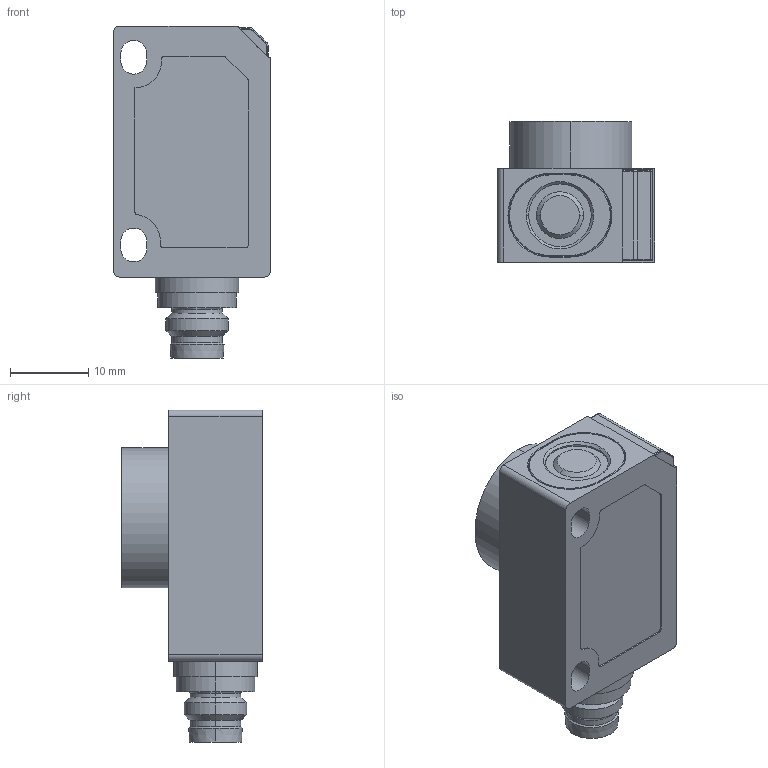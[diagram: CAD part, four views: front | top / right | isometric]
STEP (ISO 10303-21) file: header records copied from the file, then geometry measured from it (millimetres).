
FILE_DESCRIPTION((''),'2;1');
FILE_NAME('C:\Dokumente und Einstellungen\Kramp\Eigene Dateien\Microsonic Nacharbeit 2\STP\zws-70_CX_QS.stp','2005-08-10T11:37:20',('Kramp'),(''),'Autodesk Inventor 7','Autodesk Inventor 7','');
FILE_SCHEMA(('AUTOMOTIVE_DESIGN { 1 0 10303 214 1 1 1 1 }'));
Length unit declared in the file: millimetre
Products named in the file (1): zws-70_CX_QS
Bounding box: 20.11 x 18 x 42.45 mm (x, y, z)
Volume: 9130.8 mm3; surface area: 3552.5 mm2
Topology: 1 solids, 1 shells, 155 faces, 380 edges, 236 vertices
Faces by surface type: cylinder 61, plane 56, cone 16, bspline 10, sphere 8, torus 4
Entity records: 4673 total; most frequent: CARTESIAN_POINT 952, DIRECTION 822, ORIENTED_EDGE 736, EDGE_CURVE 368, AXIS2_PLACEMENT_3D 308, VERTEX_POINT 232, VECTOR 206, LINE 206
